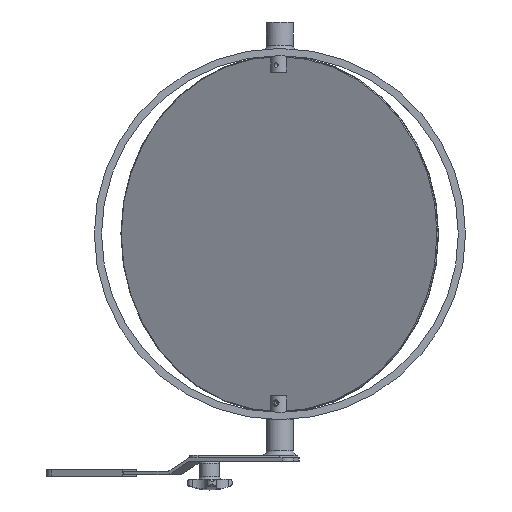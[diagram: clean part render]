
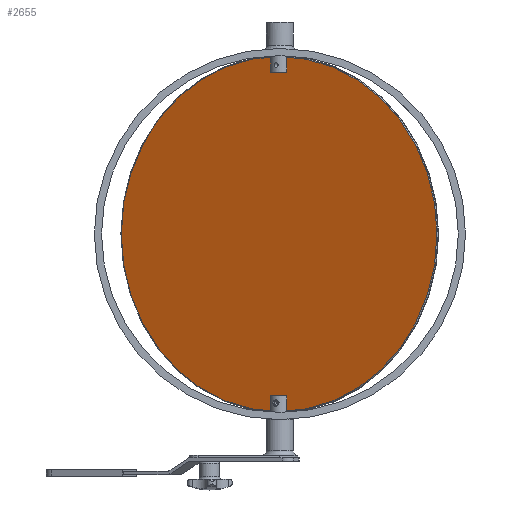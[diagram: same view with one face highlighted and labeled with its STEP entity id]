
A CAD part, front view. The second image highlights one B-rep face of the part: STEP entity #2655.
In plain terms, the highlighted planar face has unit normal (-0.458, -0.889, 0) as drawn and (0, 0, -1) by its records, which use the part's own axes.
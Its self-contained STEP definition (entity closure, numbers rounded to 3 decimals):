
#2613=CARTESIAN_POINT('',(340.557,0.,0.0));
#2614=VERTEX_POINT('',#2613);
#2615=CARTESIAN_POINT('',(142.557,0.,0.0));
#2616=DIRECTION('',(0.0,0.0,1.0));
#2617=DIRECTION('',(-1.0,0.0,0.0));
#2618=AXIS2_PLACEMENT_3D('',#2615,#2616,#2617);
#2619=CIRCLE('',#2618,198.);
#2620=EDGE_CURVE('',#2614,#2614,#2619,.T.);
#2625=CARTESIAN_POINT('',(142.557,0.,0.0));
#2626=DIRECTION('',(0.0,0.0,-1.0));
#2627=DIRECTION('',(-1.0,0.0,0.0));
#2628=AXIS2_PLACEMENT_3D('',#2625,#2626,#2627);
#2629=PLANE('',#2628);
#2630=ORIENTED_EDGE('',*,*,#2620,.F.);
#2631=EDGE_LOOP('',(#2630));
#2632=FACE_OUTER_BOUND('',#2631,.T.);
#2633=CARTESIAN_POINT('',(-42.943,0.,0.0));
#2634=VERTEX_POINT('',#2633);
#2635=CARTESIAN_POINT('',(-45.943,0.,0.0));
#2636=DIRECTION('',(0.0,0.0,1.0));
#2637=DIRECTION('',(-1.0,0.0,0.0));
#2638=AXIS2_PLACEMENT_3D('',#2635,#2636,#2637);
#2639=CIRCLE('',#2638,3.);
#2640=EDGE_CURVE('',#2634,#2634,#2639,.T.);
#2641=ORIENTED_EDGE('',*,*,#2640,.T.);
#2642=EDGE_LOOP('',(#2641));
#2643=FACE_BOUND('',#2642,.T.);
#2644=CARTESIAN_POINT('',(334.057,0.,0.0));
#2645=VERTEX_POINT('',#2644);
#2646=CARTESIAN_POINT('',(331.057,0.,0.0));
#2647=DIRECTION('',(0.0,0.0,1.0));
#2648=DIRECTION('',(-1.0,0.0,0.0));
#2649=AXIS2_PLACEMENT_3D('',#2646,#2647,#2648);
#2650=CIRCLE('',#2649,3.);
#2651=EDGE_CURVE('',#2645,#2645,#2650,.T.);
#2652=ORIENTED_EDGE('',*,*,#2651,.T.);
#2653=EDGE_LOOP('',(#2652));
#2654=FACE_BOUND('',#2653,.T.);
#2655=ADVANCED_FACE('',(#2632,#2643,#2654),#2629,.T.);
